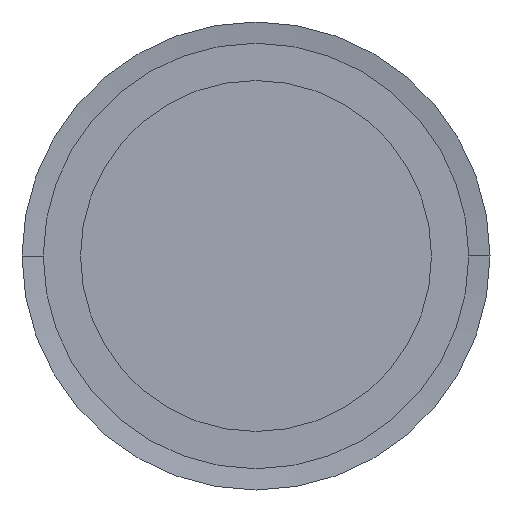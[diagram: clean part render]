
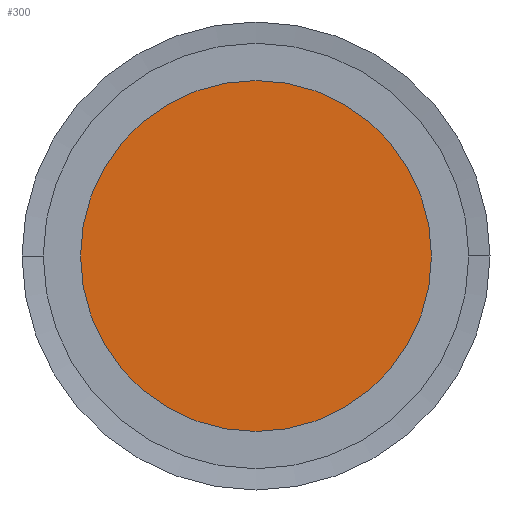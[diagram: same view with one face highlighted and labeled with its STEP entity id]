
A CAD part, left-side view. The second image highlights one B-rep face of the part: STEP entity #300.
In plain terms, the highlighted planar face has unit normal (-1, 0, 0).
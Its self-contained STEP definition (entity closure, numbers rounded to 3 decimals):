
#300 = ADVANCED_FACE( '', ( #757 ), #758, .T. );
#757 = FACE_OUTER_BOUND( '', #1214, .T. );
#758 = PLANE( '', #1215 );
#1214 = EDGE_LOOP( '', ( #3187, #3188 ) );
#1215 = AXIS2_PLACEMENT_3D( '', #3189, #3190, #3191 );
#3187 = ORIENTED_EDGE( '', *, *, #3195, .T. );
#3188 = ORIENTED_EDGE( '', *, *, #3840, .T. );
#3189 = CARTESIAN_POINT( '', ( 0., 8.25, 0. ) );
#3190 = DIRECTION( '', ( -1., 0., 0. ) );
#3191 = DIRECTION( '', ( 0., 1., 0. ) );
#3195 = EDGE_CURVE( '', #3842, #3846, #3848, .T. );
#3840 = EDGE_CURVE( '', #3846, #3842, #4919, .T. );
#3842 = VERTEX_POINT( '', #4921 );
#3846 = VERTEX_POINT( '', #4926 );
#3848 = CIRCLE( '', #4929, 16.5 );
#4919 = CIRCLE( '', #6367, 16.5 );
#4921 = CARTESIAN_POINT( '', ( 0., 16.5, 0. ) );
#4926 = CARTESIAN_POINT( '', ( 0., -16.5, 0. ) );
#4929 = AXIS2_PLACEMENT_3D( '', #6373, #6374, #6375 );
#6367 = AXIS2_PLACEMENT_3D( '', #7574, #7575, #7576 );
#6373 = CARTESIAN_POINT( '', ( 0., 0., 0. ) );
#6374 = DIRECTION( '', ( -1., 0., 0. ) );
#6375 = DIRECTION( '', ( 0., 1., 0. ) );
#7574 = CARTESIAN_POINT( '', ( 0., 0., 0. ) );
#7575 = DIRECTION( '', ( -1., 0., 0. ) );
#7576 = DIRECTION( '', ( 0., 1., 0. ) );
